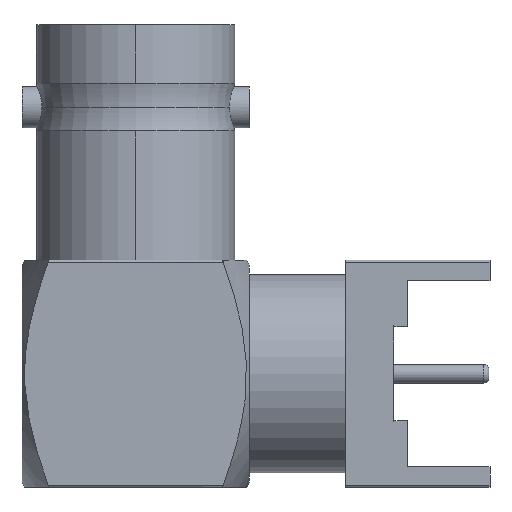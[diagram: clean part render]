
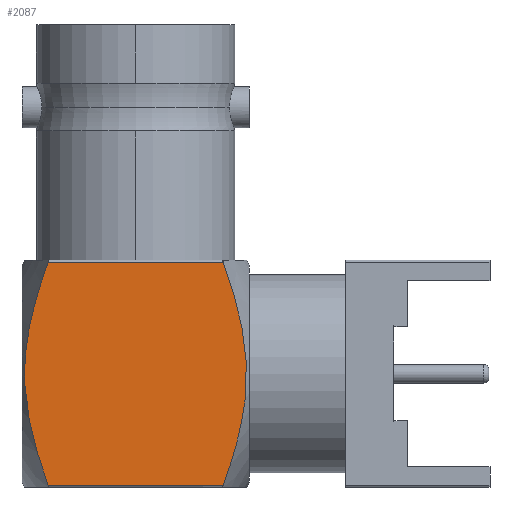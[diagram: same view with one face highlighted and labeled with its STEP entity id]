
A CAD part, left-side view. The second image highlights one B-rep face of the part: STEP entity #2087.
In plain terms, the highlighted planar face has unit normal (-1, 0, 0).
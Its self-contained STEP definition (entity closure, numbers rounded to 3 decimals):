
#27 = VECTOR ( 'NONE', #4354, 1000. ) ;
#68 = CARTESIAN_POINT ( 'NONE',  ( 0., 17.7, -10.028 ) ) ;
#331 = CARTESIAN_POINT ( 'NONE',  ( 0., 7.904, -7.343 ) ) ;
#427 = CARTESIAN_POINT ( 'NONE',  ( 0., 17.386, -10.9 ) ) ;
#438 = CARTESIAN_POINT ( 'NONE',  ( 0., 17.386, -10.9 ) ) ;
#502 = DIRECTION ( 'NONE',  ( 0., 1., 0. ) ) ;
#677 = CARTESIAN_POINT ( 'NONE',  ( 0., 8.6, -10.028 ) ) ;
#771 = CARTESIAN_POINT ( 'NONE',  ( 0., 18.521, -6.434 ) ) ;
#824 = EDGE_CURVE ( 'NONE', #1397, #2997, #2052, .T. ) ;
#936 = LINE ( 'NONE', #3649, #27 ) ;
#995 = CARTESIAN_POINT ( 'NONE',  ( 0., 8.6, -0.971 ) ) ;
#1050 = FACE_OUTER_BOUND ( 'NONE', #2292, .T. ) ;
#1112 = CARTESIAN_POINT ( 'NONE',  ( 0., 18.491, -4.575 ) ) ;
#1191 = CARTESIAN_POINT ( 'NONE',  ( 0., 18.65, -0.1 ) ) ;
#1210 = ORIENTED_EDGE ( 'NONE', *, *, #4200, .F. ) ;
#1296 = DIRECTION ( 'NONE',  ( 0., 0., -1. ) ) ;
#1373 = VECTOR ( 'NONE', #502, 1000. ) ;
#1397 = VERTEX_POINT ( 'NONE', #438 ) ;
#1461 = CARTESIAN_POINT ( 'NONE',  ( 0., 18.291, -3.198 ) ) ;
#1627 = PLANE ( 'NONE',  #2077 ) ;
#1698 = CARTESIAN_POINT ( 'NONE',  ( 0., 8.009, -3.198 ) ) ;
#1803 = CARTESIAN_POINT ( 'NONE',  ( 0., 17.7, -0.971 ) ) ;
#2013 = CARTESIAN_POINT ( 'NONE',  ( 0., 8.914, -0.1 ) ) ;
#2035 = CARTESIAN_POINT ( 'NONE',  ( 0., 7.809, -4.575 ) ) ;
#2052 = B_SPLINE_CURVE_WITH_KNOTS ( 'NONE', 3,
 ( #427, #68, #2128, #2839, #771, #3202, #1112, #3543, #1461, #3892, #1803, #4236 ),
 .UNSPECIFIED., .F., .F.,
 ( 4, 2, 2, 2, 2, 4 ),
 ( 0.006, 0.009, 0.011, 0.013, 0.014, 0.017 ),
 .UNSPECIFIED. ) ;
#2077 = AXIS2_PLACEMENT_3D ( 'NONE', #2666, #3381, #1296 ) ;
#2087 = ADVANCED_FACE ( 'NONE', ( #1050 ), #1627, .F. ) ;
#2112 = EDGE_CURVE ( 'NONE', #1397, #2945, #936, .T. ) ;
#2128 = CARTESIAN_POINT ( 'NONE',  ( 0., 17.984, -9.139 ) ) ;
#2292 = EDGE_LOOP ( 'NONE', ( #1210, #4215, #4386, #4302 ) ) ;
#2317 = VERTEX_POINT ( 'NONE', #2013 ) ;
#2391 = CARTESIAN_POINT ( 'NONE',  ( 0., 7.779, -6.434 ) ) ;
#2666 = CARTESIAN_POINT ( 'NONE',  ( 0., 18.65, -11. ) ) ;
#2710 = CARTESIAN_POINT ( 'NONE',  ( 0., 8.914, -0.1 ) ) ;
#2739 = CARTESIAN_POINT ( 'NONE',  ( 0., 8.316, -9.139 ) ) ;
#2839 = CARTESIAN_POINT ( 'NONE',  ( 0., 18.396, -7.343 ) ) ;
#2945 = VERTEX_POINT ( 'NONE', #3527 ) ;
#2997 = VERTEX_POINT ( 'NONE', #3891 ) ;
#3104 = CARTESIAN_POINT ( 'NONE',  ( 0., 8.914, -10.9 ) ) ;
#3152 = EDGE_CURVE ( 'NONE', #2317, #2997, #4138, .T. ) ;
#3202 = CARTESIAN_POINT ( 'NONE',  ( 0., 18.522, -5.045 ) ) ;
#3381 = DIRECTION ( 'NONE',  ( 1., 0., 0. ) ) ;
#3442 = B_SPLINE_CURVE_WITH_KNOTS ( 'NONE', 3,
 ( #2710, #995, #3778, #1698, #4127, #2035, #4483, #2391, #331, #2739, #677, #3104 ),
 .UNSPECIFIED., .F., .F.,
 ( 4, 2, 2, 2, 2, 4 ),
 ( 0.021, 0.024, 0.025, 0.027, 0.029, 0.032 ),
 .UNSPECIFIED. ) ;
#3527 = CARTESIAN_POINT ( 'NONE',  ( 0., 8.914, -10.9 ) ) ;
#3543 = CARTESIAN_POINT ( 'NONE',  ( 0., 18.375, -3.653 ) ) ;
#3649 = CARTESIAN_POINT ( 'NONE',  ( 0., 18.65, -10.9 ) ) ;
#3778 = CARTESIAN_POINT ( 'NONE',  ( 0., 8.319, -1.85 ) ) ;
#3891 = CARTESIAN_POINT ( 'NONE',  ( 0., 17.386, -0.1 ) ) ;
#3892 = CARTESIAN_POINT ( 'NONE',  ( 0., 17.981, -1.85 ) ) ;
#4127 = CARTESIAN_POINT ( 'NONE',  ( 0., 7.925, -3.653 ) ) ;
#4138 = LINE ( 'NONE', #1191, #1373 ) ;
#4200 = EDGE_CURVE ( 'NONE', #2317, #2945, #3442, .T. ) ;
#4215 = ORIENTED_EDGE ( 'NONE', *, *, #3152, .T. ) ;
#4236 = CARTESIAN_POINT ( 'NONE',  ( 0., 17.386, -0.1 ) ) ;
#4302 = ORIENTED_EDGE ( 'NONE', *, *, #2112, .T. ) ;
#4354 = DIRECTION ( 'NONE',  ( 0., -1., 0. ) ) ;
#4386 = ORIENTED_EDGE ( 'NONE', *, *, #824, .F. ) ;
#4483 = CARTESIAN_POINT ( 'NONE',  ( 0., 7.778, -5.045 ) ) ;
